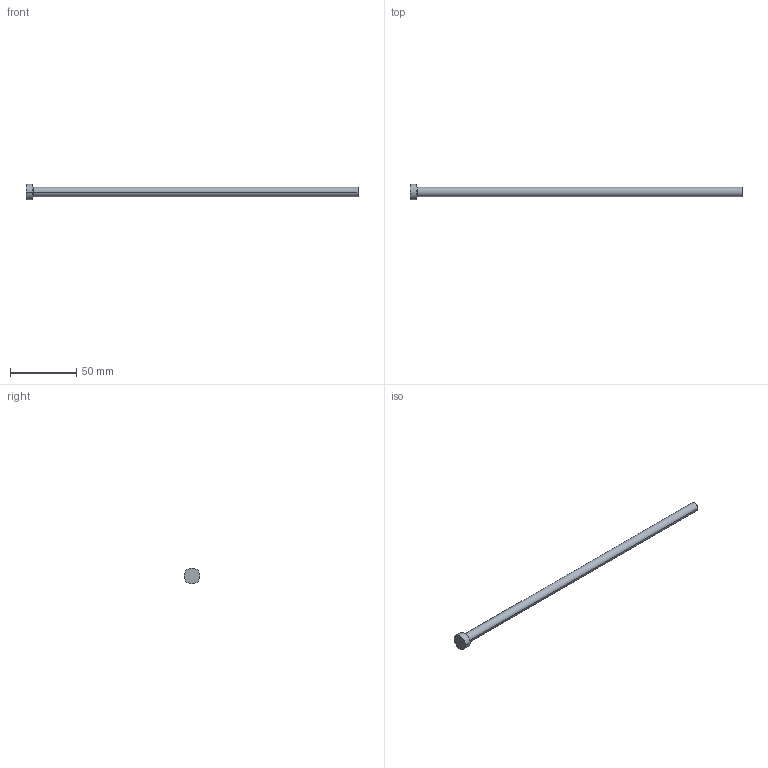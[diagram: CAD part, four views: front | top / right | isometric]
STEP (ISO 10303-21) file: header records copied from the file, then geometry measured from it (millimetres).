
FILE_DESCRIPTION (( 'STEP AP214' ), '1' );
FILE_NAME ('A-7x250.STEP', '2020-05-29T15:46:43', ( 'August' ), ( '' ), 'SwSTEP 2.0', 'SolidWorks 2018', '' );
FILE_SCHEMA (( 'AUTOMOTIVE_DESIGN' ));
Length unit declared in the file: millimetre
Products named in the file (1): A-7x250
Bounding box: 250 x 12 x 12 mm (x, y, z)
Volume: 9995.4 mm3; surface area: 5797.9 mm2
Topology: 1 solids, 1 shells, 9 faces, 16 edges, 10 vertices
Faces by surface type: cylinder 4, plane 3, torus 2
Entity records: 260 total; most frequent: DIRECTION 48, CARTESIAN_POINT 36, ORIENTED_EDGE 32, AXIS2_PLACEMENT_3D 22, EDGE_CURVE 16, CIRCLE 12, EDGE_LOOP 10, VERTEX_POINT 10
